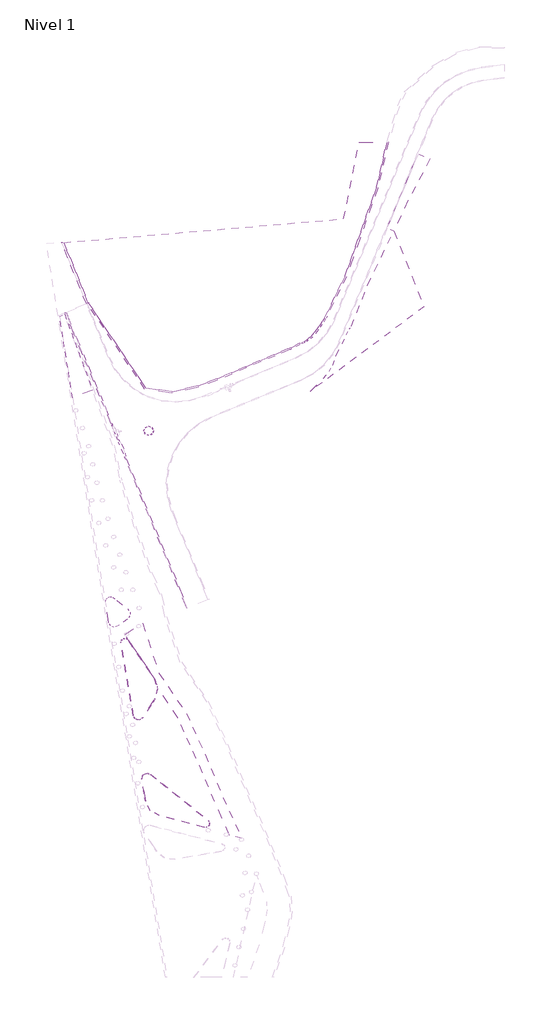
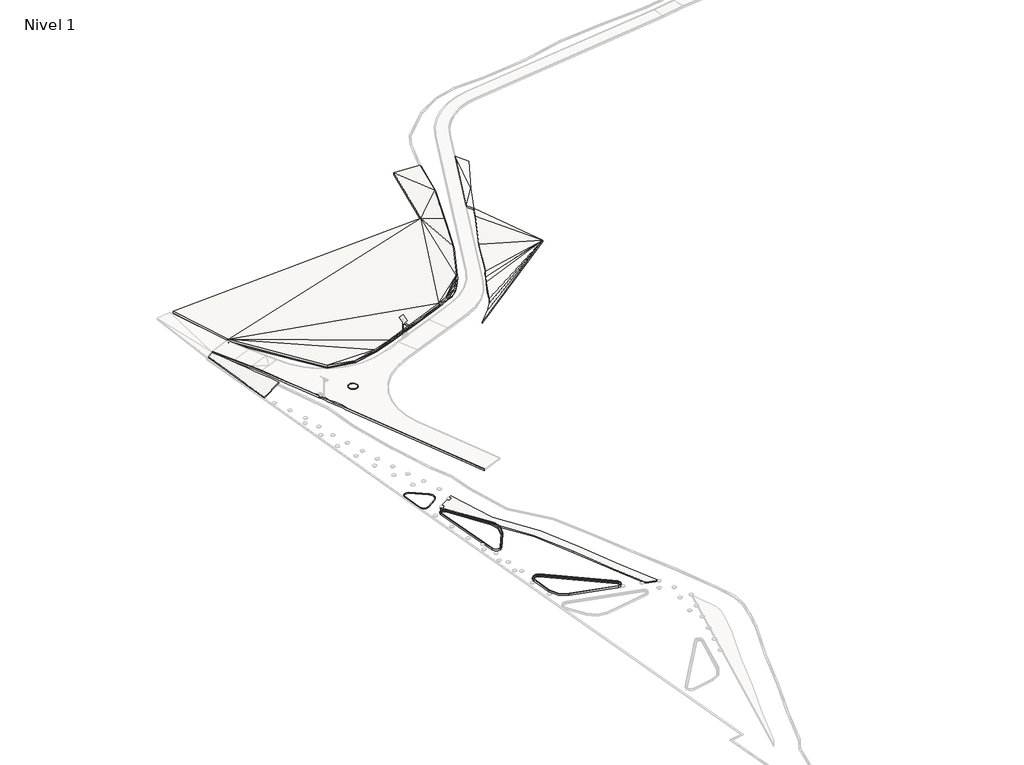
# One storey, part 26 of 45: 14 slabs.
"""IFC4 building model written with IfcOpenShell, lengths in millimetres."""

from ifc_helpers import new_model, si_unit, point, frame, frame_2d, origin, place, context, project, spatial, polyline, circle_curve, trimmed, segment, composite_curve, outline, extrude, faceted_brep, element, save
from ifc_brep_helpers import plane_surface, cylinder_surface, revolved_surface, spline_surface, advanced_brep

model = new_model("IFC4")

# Units and contexts
model_context = context("Model", 3, world=origin())
ifc_project = project(units=[si_unit("LENGTHUNIT", "METRE", prefix="MILLI")], contexts=[model_context])

# Site, building, storey
site = spatial("IfcSite", under=ifc_project)
building = spatial("IfcBuilding", under=site)
storey = spatial("IfcBuildingStorey", under=building, Name="Nivel 1", Elevation=0.0)

# Slabs
placement = place(None, origin())
element("IfcSlab", 1, ObjectType="Tierra de Chacra (50cm)", at=placement, inside=storey, context=model_context, shape_type="Brep", body=[
    faceted_brep([(-378146.3994976, 400018.7227005, 3575.4257695), (-378146.3994976, 400018.7227005, 4075.4257695), (-383377.8228678, 412861.0538119, 4900.0), (-383377.8228678, 412861.0538119, 4400.0), (-323845.4763619, 417906.5329792, 3500.0), (-323845.4763619, 417906.5329792, 3000.0), (-320598.8044626, 434137.2344872, 3500.0), (-320598.8044626, 434137.2344872, 3000.0), (-314656.1059044, 434154.0611876, 3217.107411), (-314656.1059044, 434154.0611876, 2717.107411), (-316853.6630254, 424573.4541626, 3787.4453172), (-316853.6630254, 424573.4541626, 3287.4453172), (-320226.0146362, 415163.9355018, 3952.8620717), (-320226.0146362, 415163.9355018, 3452.8620717), (-323562.0069546, 405739.0199141, 4140.6407391), (-323562.0069546, 405739.0199141, 3640.6407391), (-327963.1970536, 396771.2290702, 3947.939249), (-327963.1970536, 396771.2290702, 3447.939249), (-328676.2940522, 395614.6182796, 3916.9154118), (-328676.2940522, 395614.6182796, 3416.9154118), (-329497.5953701, 394465.3919847, 3905.7325268), (-329497.5953701, 394465.3919847, 3405.7325268), (-330723.4402804, 392991.663734, 3924.8703526), (-330723.4402804, 392991.663734, 3424.8703526), (-332192.4036407, 391792.3720205, 3917.0385342), (-332192.4036407, 391792.3720205, 3417.0385342), (-333282.2267254, 391432.335055, 3886.0367882), (-333282.2267254, 391432.335055, 3386.0367882), (-335033.9087338, 390485.2920273, 3837.8901924), (-335033.9087338, 390485.2920273, 3337.8901924), (-335674.7594649, 390246.7461476, 3844.0714275), (-335674.7594649, 390246.7461476, 3344.0714275), (-350747.530482, 383901.9008266, 4110.3877009), (-350747.530482, 383901.9008266, 3610.3877009), (-354817.062614, 382445.5375975, 4072.5746386), (-354817.062614, 382445.5375975, 3572.5746386), (-360305.5273813, 381111.4711413, 4189.1307241), (-360305.5273813, 381111.4711413, 3689.1307241), (-365964.853395, 382006.4562471, 4462.2422343), (-365964.853395, 382006.4562471, 3962.2422343), (-378140.5455537, 400021.1334942, 4075.4329873), (-378140.5455537, 400021.1334942, 3575.4329873)], [[[0, 1, 2, 3]], [[3, 2, 4, 5]], [[5, 4, 6, 7]], [[7, 6, 8, 9]], [[9, 8, 10, 11]], [[11, 10, 12, 13]], [[13, 12, 14, 15]], [[15, 14, 16, 17]], [[17, 16, 18, 19]], [[19, 18, 20, 21]], [[21, 20, 22, 23]], [[23, 22, 24, 25]], [[25, 24, 26, 27]], [[27, 26, 28, 29]], [[29, 28, 30, 31]], [[31, 30, 32, 33]], [[33, 32, 34, 35]], [[35, 34, 36, 37]], [[37, 36, 38, 39]], [[39, 38, 40, 41]], [[41, 40, 1, 0]], [[40, 38, 34]], [[41, 35, 39]], [[10, 6, 4]], [[10, 8, 6]], [[12, 10, 4]], [[11, 5, 7]], [[11, 7, 9]], [[13, 5, 11]], [[14, 12, 4]], [[15, 5, 13]], [[16, 14, 4]], [[17, 5, 15]], [[30, 28, 26]], [[30, 26, 16]], [[26, 24, 22]], [[26, 18, 16]], [[30, 16, 4]], [[31, 27, 29]], [[31, 17, 27]], [[27, 23, 25]], [[27, 17, 19]], [[31, 5, 17]], [[26, 20, 18]], [[27, 19, 21]], [[26, 22, 20]], [[27, 21, 23]], [[40, 32, 30]], [[40, 4, 2]], [[40, 30, 4]], [[41, 31, 33]], [[41, 3, 5]], [[41, 5, 31]], [[40, 34, 32]], [[41, 33, 35]], [[38, 36, 34]], [[39, 35, 37]], [[40, 2, 1]], [[41, 0, 3]]]),
])
element("IfcSlab", 2, ObjectType="Junko", at=placement, inside=storey, context=model_context, shape_type="Brep", body=[
    faceted_brep([(-314598.0289566, 415901.8677058, 4200.0), (-314598.0289566, 415901.8677058, 4500.0), (-307994.8930088, 431751.6495206, 4500.0), (-307994.8930088, 431751.6495206, 4200.0), (-305474.033996, 430701.4410722, 3134.5620039), (-305474.033996, 430701.4410722, 2834.5620039), (-310155.580028, 421818.7023593, 3587.309196), (-310155.580028, 421818.7023593, 3287.309196), (-313205.3701186, 415321.6757673, 3745.6582597), (-313205.3701186, 415321.6757673, 3445.6582597)], [[[0, 1, 2, 3]], [[3, 2, 4, 5]], [[5, 4, 6, 7]], [[7, 6, 8, 9]], [[9, 8, 1, 0]], [[8, 6, 1]], [[9, 0, 7]], [[6, 4, 2]], [[6, 2, 1]], [[7, 3, 5]], [[7, 0, 3]]]),
])
element("IfcSlab", 3, ObjectType="Bordillo", at=placement, inside=storey, context=model_context, shape_type="Brep", body=[
    faceted_brep([(-357149.8973001, 335116.3340338, 4350.0), (-357149.8973001, 335116.3340338, 4750.0), (-359053.8797869, 339739.6280086, 4750.0), (-370214.9661918, 366841.2341864, 4750.0), (-370671.9220315, 367950.8248445, 4750.0), (-371471.5946764, 369892.6083149, 4750.0307741), (-371928.5505335, 371002.1990152, 4761.4181215), (-372385.5064401, 372111.7898356, 4778.3731301), (-372872.9260555, 373295.3533329, 4796.4774108), (-373329.9588986, 374405.1309724, 4749.9954896), (-374842.8131503, 378078.6783895, 4750.0), (-375722.8747613, 380215.6641924, 4750.0), (-378344.2684725, 386580.9925682, 4750.0), (-379332.8617758, 388981.5175176, 4613.6), (-380955.8950564, 392922.6041813, 4381.4098849), (-383047.0939061, 398000.5012254, 4063.3177859), (-383047.0939061, 398000.5012254, 3663.3177859), (-380955.8952437, 392922.604636, 3981.4177859), (-379332.8611608, 388981.516024, 4213.5703452), (-378344.2684725, 386580.9925682, 4350.0), (-375722.8747613, 380215.6641924, 4350.0), (-374842.8131503, 378078.6783895, 4350.0), (-373329.9589651, 374405.131134, 4350.0), (-372872.9262308, 373295.3537585, 4396.4954626), (-372385.5064171, 372111.7897797, 4378.3774072), (-371928.5506639, 371002.1993317, 4361.3957343), (-371471.5946173, 369892.6081713, 4350.0574344), (-370671.9220315, 367950.8248445, 4350.0307741), (-370214.9661918, 366841.2341864, 4350.0), (-359053.8797869, 339739.6280086, 4350.0), (-382908.3949234, 398057.6196531, 4063.2681559), (-382908.3949234, 398057.6196531, 3663.2681559), (-380817.1950822, 392979.7202067, 4381.3683946), (-379194.163383, 389038.6373989, 4613.5919803), (-378205.5698705, 386638.1119516, 4750.0), (-375584.1761508, 380272.783581, 4750.0), (-374704.1145368, 378135.7977794, 4750.0), (-373191.2603463, 374462.250526, 4750.0), (-373191.2603463, 374462.250526, 4350.0), (-374704.1145368, 378135.7977794, 4350.0), (-375584.1761508, 380272.783581, 4350.0), (-378205.5698705, 386638.1119516, 4350.0), (-379194.163178, 389038.6369011, 4213.5820954), (-380817.1964642, 392979.7235624, 3981.4316373), (-372503.0624863, 373447.6717027, 4796.4954896), (-372503.0624863, 373447.6717027, 4396.4954896), (-372015.6430871, 372264.1085778, 4778.3954794), (-372015.6430871, 372264.1085778, 4378.3954794), (-371789.8518687, 371059.3182339, 4761.4092849), (-371789.8518687, 371059.3182339, 4361.4092849), (-371101.7313722, 370044.9268796, 4749.9945326), (-371101.7313722, 370044.9268796, 4349.9945326), (-370302.0587067, 368103.1433639, 4749.989742), (-370302.0587067, 368103.1433639, 4349.989742), (-370076.2675621, 366898.353583, 4750.0), (-370076.2675621, 366898.353583, 4350.0), (-358915.1811182, 339796.7474214, 4750.0), (-357011.1986247, 335173.4534492, 4750.0), (-357011.1986247, 335173.4534492, 4350.0), (-358915.1811182, 339796.7474214, 4350.0)], [[[0, 1, 2, 3, 4, 5, 6, 7, 8, 9, 10, 11, 12, 13, 14, 15, 16, 17, 18, 19, 20, 21, 22, 23, 24, 25, 26, 27, 28, 29]], [[16, 15, 30, 31]], [[31, 30, 32, 33, 34, 35, 36, 37, 38, 39, 40, 41, 42, 43]], [[38, 37, 44, 45]], [[45, 44, 46, 47]], [[47, 46, 48, 49]], [[49, 48, 50, 51]], [[51, 50, 52, 53]], [[53, 52, 54, 55]], [[55, 54, 56, 57, 58, 59]], [[58, 57, 1, 0]], [[54, 52, 4, 3]], [[55, 28, 27, 53]], [[57, 56, 54, 3, 2, 1]], [[58, 0, 29, 28, 55, 59]], [[48, 46, 7, 6]], [[30, 15, 14, 32]], [[49, 25, 24, 47]], [[31, 43, 17, 16]], [[44, 37, 9, 8]], [[46, 44, 8, 7]], [[34, 12, 11, 35]], [[45, 23, 22, 38]], [[47, 24, 23, 45]], [[41, 40, 20, 19]], [[50, 48, 6, 5]], [[52, 50, 5, 4]], [[51, 26, 25, 49]], [[53, 27, 26, 51]], [[34, 33, 12]], [[41, 19, 42]], [[12, 33, 13]], [[19, 18, 42]], [[33, 32, 14, 13]], [[42, 18, 17, 43]], [[37, 36, 10, 9]], [[38, 22, 21, 39]], [[35, 11, 10, 36]], [[40, 39, 21, 20]]]),
])
element("IfcSlab", 4, ObjectType="Chilca", at=placement, inside=storey, context=model_context, shape_type="AdvancedBrep", body=[
    advanced_brep(
    [(-348091.9979942, 286900.4932908, 3200.0), (-351299.8190553, 294115.3086168, 3200.0), (-355194.442815, 303295.9950162, 3200.0), (-359035.7529811, 311760.4967808, 3200.0), (-363396.928661, 318196.1963239, 3200.0), (-364054.308433, 320128.4344994, 3200.0), (-369645.3940077, 328430.6293832, 3200.0), (-370404.1515026, 329557.3072923, 3200.0), (-366653.8791033, 331966.1061695, 3200.0), (-363175.5694004, 321434.7232697, 3200.0), (-357284.7533231, 312741.7640524, 3200.0), (-353362.9542911, 304099.9014085, 3200.0), (-349465.3411608, 294912.1682538, 3200.0), (-345600.0516469, 286256.2600994, 3200.0), (-348091.9979942, 286900.4932908, 3500.0), (-345600.0516469, 286256.2600994, 3500.0), (-349465.3411608, 294912.1682538, 3500.0), (-353362.9542911, 304099.9014085, 3500.0), (-357284.7533231, 312741.7640524, 3500.0), (-363175.5694004, 321434.7232697, 3500.0), (-366653.8791033, 331966.1061695, 3500.0), (-370404.1515026, 329557.3072923, 3500.0), (-369645.4118109, 328430.655821, 3500.0), (-364054.308433, 320128.4344994, 3500.0), (-363396.928661, 318196.1963239, 3500.0), (-359035.7529811, 311760.4967808, 3500.0), (-355194.442815, 303295.9950162, 3500.0), (-351299.8190553, 294115.3086168, 3500.0)],
    [
        (0, 1),
        (1, 2),
        (2, 3),
        (3, 4),
        (4, 5, circle_curve(frame((-367289.1464844, 317949.9435559, 3200.0), z_axis=(0.0, 0.0, 1.0), x_axis=(1.0, 0.0, 0.0)), 3900.0000013)),
        (5, 6),
        (6, 7),
        (7, 8),
        (8, 9),
        (9, 10),
        (10, 11),
        (11, 12),
        (12, 13),
        (13, 0),
        (14, 15),
        (15, 16),
        (16, 17),
        (17, 18),
        (18, 19),
        (19, 20),
        (20, 21),
        (21, 22),
        (22, 23),
        (23, 24, circle_curve(frame((-367289.1464844, 317949.9435559, 3500.0), z_axis=(0.0, 0.0, -1.0), x_axis=(1.0, 0.0, 0.0)), 3900.0000013)),
        (24, 25),
        (25, 26),
        (26, 27),
        (27, 14),
        (0, 14),
        (27, 1),
        (26, 2),
        (25, 3),
        (24, 4),
        (6, 22),
        (21, 7),
        (20, 8),
        (19, 9),
        (18, 10),
        (17, 11),
        (16, 12),
        (15, 13),
        (23, 5),
    ],
    [
        plane_surface(frame((-348091.9979942, 286900.4932908, 3200.0), z_axis=(0.0, 0.0, -1.0000000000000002), x_axis=(-0.4062692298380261, 0.9137534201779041, 0.0))),
        plane_surface(frame((-348091.9979942, 286900.4932908, 3500.0), z_axis=(0.0, 0.0, 1.0000000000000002), x_axis=(0.4062692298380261, -0.9137534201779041, 0.0))),
        plane_surface(frame((-348091.9979942, 286900.4932908, 3200.0), z_axis=(-0.9137534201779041, -0.4062692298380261, 0.0), x_axis=(0.0, 0.0, 1.0))),
        plane_surface(frame((-351299.8190553, 294115.3086168, 3200.0), z_axis=(-0.9205894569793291, -0.3905317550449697, 0.0), x_axis=(0.0, 0.0, 1.0))),
        plane_surface(frame((-355194.442815, 303295.9950162, 3200.0), z_axis=(-0.9106171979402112, -0.4132509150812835, 0.0), x_axis=(0.0, 0.0, 1.0))),
        plane_surface(frame((-359035.7529811, 311760.4967808, 3200.0), z_axis=(-0.8278285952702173, -0.5609811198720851, 0.0), x_axis=(0.0, 0.0, 1.0))),
        plane_surface(frame((-369645.4118109, 328430.655821, 3200.0), z_axis=(-0.8294456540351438, -0.558587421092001, 0.0), x_axis=(0.0, 0.0, 1.0))),
        plane_surface(frame((-370404.1515026, 329557.3072923, 3200.0), z_axis=(-0.5404256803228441, 0.8413917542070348, 0.0), x_axis=(0.0, 0.0, 1.0))),
        plane_surface(frame((-366653.8791033, 331966.1061695, 3200.0), z_axis=(0.9495493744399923, 0.3136175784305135, 0.0), x_axis=(0.0, 0.0, 1.0))),
        plane_surface(frame((-363175.5694004, 321434.7232697, 3200.0), z_axis=(0.8278285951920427, 0.560981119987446, 0.0), x_axis=(0.0, 0.0, 1.0))),
        plane_surface(frame((-357284.7533231, 312741.7640524, 3200.0), z_axis=(0.9106171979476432, 0.4132509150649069, 0.0), x_axis=(0.0, 0.0, 1.0))),
        plane_surface(frame((-353362.9542911, 304099.9014085, 3200.0), z_axis=(0.9205894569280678, 0.3905317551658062, 0.0), x_axis=(0.0, 0.0, 1.0))),
        plane_surface(frame((-349465.3411608, 294912.1682538, 3200.0), z_axis=(0.9130968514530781, 0.40774273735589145, 0.0), x_axis=(0.0, 0.0, 1.0))),
        plane_surface(frame((-345600.0516469, 286256.2600994, 3200.0), z_axis=(-0.2502969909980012, -0.9681691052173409, 0.0), x_axis=(0.0, 0.0, 1.0))),
        revolved_surface(polyline([(-363389.14648309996, 317949.9435559, 3500.0), (-363389.14648309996, 317949.9435559, 3200.0)]), (-367289.1464844, 317949.9435559, 3500.0), (0.0, 0.0, 1.0)),
        plane_surface(frame((-364054.308433, 320128.4344994, 3200.0), z_axis=(-0.8294456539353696, -0.5585874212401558, 0.0), x_axis=(0.0, 0.0, 1.0))),
    ],
    [
        (0, [[1, 2, 3, 4, 5, 6, 7, 8, 9, 10, 11, 12, 13, 14]]),
        (1, [[15, 16, 17, 18, 19, 20, 21, 22, 23, 24, 25, 26, 27, 28]]),
        (2, [[-1, 29, -28, 30]]),
        (3, [[-2, -30, -27, 31]]),
        (4, [[-3, -31, -26, 32]]),
        (5, [[-4, -32, -25, 33]]),
        (6, [[-7, 34, -22, 35]]),
        (7, [[-8, -35, -21, 36]]),
        (8, [[-9, -36, -20, 37]]),
        (9, [[-10, -37, -19, 38]]),
        (10, [[-11, -38, -18, 39]]),
        (11, [[-12, -39, -17, 40]]),
        (12, [[-13, -40, -16, 41]]),
        (13, [[-14, -41, -15, -29]]),
        (14, [[-5, -33, -24, 42]]),
        (15, [[-6, -42, -23, -34]]),
    ],
),
])
element("IfcSlab", 5, ObjectType="Tierra de Chacra (50cm)", at=placement, inside=storey, context=model_context, shape_type="SweptSolid", body=[
    extrude(outline(composite_curve([segment(trimmed(circle_curve(frame_2d((-365328.1764563, 372855.3859913)), 950.0), [point((-366278.1764563, 372855.3859913))], [point((-364378.1764563, 372855.3859913))], False, "CARTESIAN"), True, "CONTINUOUS"), segment(trimmed(circle_curve(frame_2d((-365328.1764563, 372855.3859913)), 950.0), [point((-364378.1764563, 372855.3859913))], [point((-366278.1764563, 372855.3859913))], False, "CARTESIAN"), True, "CONTINUOUS")], self_intersect=False)), frame((0.0, 0.0, 4250.0), z_axis=(0.0, 0.0, 1.0), x_axis=(1.0, 0.0, 0.0)), (0.0, 0.0, 1.0), 500.0),
])
element("IfcSlab", 6, ObjectType="Alcorque", at=placement, inside=storey, context=model_context, shape_type="SweptSolid", body=[
    extrude(outline(composite_curve([segment(trimmed(circle_curve(frame_2d((-365328.1764563, 372855.3859913)), 1050.0), [point((-366378.1764563, 372855.3859913))], [point((-364278.1764563, 372855.3859913))], False, "CARTESIAN"), True, "CONTINUOUS"), segment(trimmed(circle_curve(frame_2d((-365328.1764563, 372855.3859913)), 1050.0), [point((-364278.1764563, 372855.3859913))], [point((-366378.1764563, 372855.3859913))], False, "CARTESIAN"), True, "CONTINUOUS")], self_intersect=False), holes=[composite_curve([segment(trimmed(circle_curve(frame_2d((-365328.1764563, 372855.3859913)), 950.0), [point((-364378.1764563, 372855.3859913))], [point((-366278.1764563, 372855.3859913))], True, "CARTESIAN"), True, "CONTINUOUS"), segment(trimmed(circle_curve(frame_2d((-365328.1764563, 372855.3859913)), 950.0), [point((-366278.1764563, 372855.3859913))], [point((-364378.1764563, 372855.3859913))], True, "CARTESIAN"), True, "CONTINUOUS")], self_intersect=False)]), frame((0.0, 0.0, 4650.0), z_axis=(0.0, 0.0, 1.0), x_axis=(1.0, 0.0, 0.0)), (0.0, 0.0, 1.0), 150.0),
])
element("IfcSlab", 7, ObjectType="Tierra de Chacra (20cm)", at=placement, inside=storey, context=model_context, shape_type="AdvancedBrep", body=[
    advanced_brep(
    [(-352725.5404634, 290003.7125198, 3100.0), (-353424.8080519, 288604.3253806, 3100.0), (-363118.0568555, 291099.8424463, 3100.0), (-365920.182165, 294162.6196729, 3100.0), (-366688.8271733, 298832.0158145, 3100.0), (-364996.7838568, 299822.5201199, 3100.0), (-365184.2134707, 299588.2763584, 3100.0), (-366392.8136329, 298880.7598824, 3100.0), (-365624.1660149, 294211.3478873, 3100.0), (-363043.2611245, 291390.3688627, 3100.0), (-353350.0123209, 288894.851797, 3100.0), (-352912.9700781, 289769.4687589, 3100.0), (-352725.5404634, 290003.7125198, 3300.0), (-364996.7838568, 299822.5201199, 3300.0), (-366688.8271733, 298832.0158146, 3300.0), (-365920.182165, 294162.6196729, 3300.0), (-363118.0568555, 291099.8424463, 3300.0), (-353424.8080519, 288604.3253806, 3300.0), (-365184.2134674, 299588.2763631, 3300.0), (-352912.9700781, 289769.4687589, 3300.0), (-353350.0123209, 288894.851797, 3300.0), (-363043.2611245, 291390.3688627, 3300.0), (-365624.1660149, 294211.3478873, 3300.0), (-366392.8136329, 298880.7598824, 3300.0)],
    [
        (0, 1, circle_curve(frame((-353225.3527693, 289379.0624908, 3100.0), z_axis=(0.0, 0.0, -1.0), x_axis=(-0.054500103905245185, -0.9985137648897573, 0.0)), 799.9999998)),
        (1, 2),
        (2, 3, circle_curve(frame((-362170.6442624, 294779.8437218, 3100.0), z_axis=(0.0, 0.0, -1.0), x_axis=(-0.054500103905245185, -0.9985137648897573, 0.0)), 3800.0000013)),
        (3, 4),
        (4, 5, circle_curve(frame((-365652.7875063, 299002.6669534, 3100.0), z_axis=(0.0, 0.0, -1.0), x_axis=(-0.054500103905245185, -0.9985137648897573, 0.0)), 1050.0000013)),
        (5, 0),
        (6, 7, circle_curve(frame((-365652.7875063, 299002.6669534, 3100.0), z_axis=(0.0, 0.0, 1.0), x_axis=(-0.054500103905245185, -0.9985137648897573, 0.0)), 750.0000013)),
        (7, 8),
        (8, 9, circle_curve(frame((-362170.6442624, 294779.8437218, 3100.0), z_axis=(0.0, 0.0, 1.0), x_axis=(-0.054500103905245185, -0.9985137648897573, 0.0)), 3500.0000013)),
        (9, 10),
        (10, 11, circle_curve(frame((-353225.3527693, 289379.0624908, 3100.0), z_axis=(0.0, 0.0, 1.0), x_axis=(-0.054500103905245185, -0.9985137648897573, 0.0)), 499.9999998)),
        (11, 6),
        (12, 13),
        (13, 14, circle_curve(frame((-365652.7875063, 299002.6669534, 3300.0), z_axis=(0.0, 0.0, 1.0), x_axis=(-0.054500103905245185, -0.9985137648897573, 0.0)), 1050.0000013)),
        (14, 15),
        (15, 16, circle_curve(frame((-362170.6442624, 294779.8437218, 3300.0), z_axis=(0.0, 0.0, 1.0), x_axis=(-0.054500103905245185, -0.9985137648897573, 0.0)), 3800.0000013)),
        (16, 17),
        (17, 12, circle_curve(frame((-353225.3527693, 289379.0624908, 3300.0), z_axis=(0.0, 0.0, 1.0), x_axis=(-0.054500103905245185, -0.9985137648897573, 0.0)), 799.9999998)),
        (18, 19),
        (19, 20, circle_curve(frame((-353225.3527693, 289379.0624908, 3300.0), z_axis=(0.0, 0.0, -1.0), x_axis=(-0.054500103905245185, -0.9985137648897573, 0.0)), 499.9999998)),
        (20, 21),
        (21, 22, circle_curve(frame((-362170.6442624, 294779.8437218, 3300.0), z_axis=(0.0, 0.0, -1.0), x_axis=(-0.054500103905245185, -0.9985137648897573, 0.0)), 3500.0000013)),
        (22, 23),
        (23, 18, circle_curve(frame((-365652.7875063, 299002.6669534, 3300.0), z_axis=(0.0, 0.0, -1.0), x_axis=(-0.054500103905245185, -0.9985137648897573, 0.0)), 750.0000013)),
        (6, 18),
        (23, 7),
        (22, 8),
        (21, 9),
        (20, 10),
        (19, 11),
        (0, 12),
        (17, 1),
        (16, 2),
        (15, 3),
        (14, 4),
        (13, 5),
    ],
    [
        plane_surface(frame((-365693.6625843, 298253.7816284, 3100.0), z_axis=(0.0, 0.0, -1.0), x_axis=(0.9985137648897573, -0.054500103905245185, 0.0))),
        plane_surface(frame((-365693.6625843, 298253.7816284, 3300.0), z_axis=(0.0, 0.0, 1.0), x_axis=(-0.9985137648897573, 0.054500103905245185, 0.0))),
        revolved_surface(polyline([(-365693.6625842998, 298253.7816284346, 3300.0), (-365693.6625842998, 298253.7816284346, 3100.0)]), (-365652.7875063, 299002.6669534, 3300.0), (0.0, 0.0, 1.0)),
        plane_surface(frame((-366392.8136329, 298880.7598824, 3100.0), z_axis=(0.9867205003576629, 0.16242738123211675, 0.0), x_axis=(0.0, 0.0, 1.0))),
        revolved_surface(polyline([(-362361.3946261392, 291285.0455433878, 3300.0), (-362361.3946261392, 291285.0455433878, 3100.0)]), (-362170.6442624, 294779.8437218, 3300.0), (0.0, 0.0, 1.0)),
        plane_surface(frame((-363043.2611245, 291390.3688627, 3100.0), z_axis=(0.24931910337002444, 0.9684213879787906, 0.0), x_axis=(0.0, 0.0, 1.0))),
        revolved_surface(polyline([(-353252.6028212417, 288879.8056085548, 3300.0), (-353252.6028212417, 288879.8056085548, 3100.0)]), (-353225.3527693, 289379.0624908, 3300.0), (0.0, 0.0, 1.0)),
        plane_surface(frame((-352912.9700781, 289769.4687589, 3100.0), z_axis=(-0.6247653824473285, -0.7808125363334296, 0.0), x_axis=(0.0, 0.0, 1.0))),
        cylinder_surface(frame((-353225.3527693, 289379.0624908, 0.0), z_axis=(0.0, 0.0, -1.0), x_axis=(-0.054500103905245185, -0.9985137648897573, 0.0)), 799.9999998),
        plane_surface(frame((-353424.8080519, 288604.3253806, 3100.0), z_axis=(-0.24931910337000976, -0.9684213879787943, 0.0), x_axis=(0.0, 0.0, 1.0))),
        cylinder_surface(frame((-362170.6442624, 294779.8437218, 0.0), z_axis=(0.0, 0.0, -1.0), x_axis=(-0.054500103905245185, -0.9985137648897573, 0.0)), 3800.0000013),
        plane_surface(frame((-365920.182165, 294162.6196729, 3100.0), z_axis=(-0.9867205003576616, -0.16242738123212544, 0.0), x_axis=(0.0, 0.0, 1.0))),
        cylinder_surface(frame((-365652.7875063, 299002.6669534, 0.0), z_axis=(0.0, 0.0, -1.0), x_axis=(-0.054500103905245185, -0.9985137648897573, 0.0)), 1050.0000013),
        plane_surface(frame((-364996.7838568, 299822.5201199, 3100.0), z_axis=(0.6247653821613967, 0.7808125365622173, 0.0), x_axis=(0.0, 0.0, 1.0))),
    ],
    [
        (0, [[1, 2, 3, 4, 5, 6], [7, 8, 9, 10, 11, 12]]),
        (1, [[13, 14, 15, 16, 17, 18], [19, 20, 21, 22, 23, 24]]),
        (2, [[-7, 25, -24, 26]]),
        (3, [[-8, -26, -23, 27]]),
        (4, [[-9, -27, -22, 28]]),
        (5, [[-10, -28, -21, 29]]),
        (6, [[-11, -29, -20, 30]]),
        (7, [[-12, -30, -19, -25]]),
        (8, [[-1, 31, -18, 32]]),
        (9, [[-2, -32, -17, 33]]),
        (10, [[-3, -33, -16, 34]]),
        (11, [[-4, -34, -15, 35]]),
        (12, [[-5, -35, -14, 36]]),
        (13, [[-6, -36, -13, -31]]),
    ],
),
])
element("IfcSlab", 8, ObjectType="Tierra de Chacra (20cm)", at=placement, inside=storey, context=model_context, shape_type="AdvancedBrep", body=[
    advanced_brep(
    [(-371180.3861969, 327792.6905572, 3100.0), (-369728.3385731, 328374.7706411, 3100.0), (-364137.2529984, 320072.5757573, 3100.0), (-364075.6211963, 315921.8273776, 3100.0), (-366601.2865188, 311919.9415536, 3100.0), (-368524.1842452, 312302.7909997, 3100.0), (-368228.5000826, 312353.4948059, 3100.0), (-366854.9944588, 312080.0424012, 3100.0), (-364329.320561, 316081.9418127, 3100.0), (-364386.0866945, 319904.9995309, 3100.0), (-369977.1722693, 328207.1944147, 3100.0), (-370884.702034, 327843.3943624, 3100.0), (-371180.3861969, 327792.6905572, 3300.0), (-368524.1842452, 312302.7909997, 3300.0), (-366601.2865187, 311919.9415537, 3300.0), (-364075.6211963, 315921.8273776, 3300.0), (-364137.2529984, 320072.5757573, 3300.0), (-369728.3385731, 328374.7706411, 3300.0), (-368228.5000882, 312353.4948045, 3300.0), (-370884.702034, 327843.3943624, 3300.0), (-369977.1722693, 328207.1944147, 3300.0), (-364386.0866945, 319904.9995309, 3300.0), (-364329.320561, 316081.9418127, 3300.0), (-366854.9944588, 312080.0424012, 3300.0)],
    [
        (0, 1, circle_curve(frame((-370391.8950962, 327927.9007042, 3100.0), z_axis=(0.0, 0.0, -1.0), x_axis=(0.7037517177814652, 0.7104460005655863, 0.0)), 799.9999998)),
        (1, 2),
        (2, 3, circle_curve(frame((-367289.1464844, 317949.9435559, 3100.0), z_axis=(0.0, 0.0, -1.0), x_axis=(0.7037517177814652, 0.7104460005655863, 0.0)), 3800.0000013)),
        (3, 4),
        (4, 5, circle_curve(frame((-367489.2896747, 312480.2543216, 3100.0), z_axis=(0.0, 0.0, -1.0), x_axis=(0.7037517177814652, 0.7104460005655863, 0.0)), 1050.0000013)),
        (5, 0),
        (6, 7, circle_curve(frame((-367489.2896747, 312480.2543216, 3100.0), z_axis=(0.0, 0.0, 1.0), x_axis=(0.7037517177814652, 0.7104460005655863, 0.0)), 750.0000013)),
        (7, 8),
        (8, 9, circle_curve(frame((-367289.1464844, 317949.9435559, 3100.0), z_axis=(0.0, 0.0, 1.0), x_axis=(0.7037517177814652, 0.7104460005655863, 0.0)), 3500.0000013)),
        (9, 10),
        (10, 11, circle_curve(frame((-370391.8950962, 327927.9007042, 3100.0), z_axis=(0.0, 0.0, 1.0), x_axis=(0.7037517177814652, 0.7104460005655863, 0.0)), 499.9999998)),
        (11, 6),
        (12, 13),
        (13, 14, circle_curve(frame((-367489.2896747, 312480.2543216, 3300.0), z_axis=(0.0, 0.0, 1.0), x_axis=(0.7037517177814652, 0.7104460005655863, 0.0)), 1050.0000013)),
        (14, 15),
        (15, 16, circle_curve(frame((-367289.1464844, 317949.9435559, 3300.0), z_axis=(0.0, 0.0, 1.0), x_axis=(0.7037517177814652, 0.7104460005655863, 0.0)), 3800.0000013)),
        (16, 17),
        (17, 12, circle_curve(frame((-370391.8950962, 327927.9007042, 3300.0), z_axis=(0.0, 0.0, 1.0), x_axis=(0.7037517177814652, 0.7104460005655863, 0.0)), 799.9999998)),
        (18, 19),
        (19, 20, circle_curve(frame((-370391.8950962, 327927.9007042, 3300.0), z_axis=(0.0, 0.0, -1.0), x_axis=(0.7037517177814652, 0.7104460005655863, 0.0)), 499.9999998)),
        (20, 21),
        (21, 22, circle_curve(frame((-367289.1464844, 317949.9435559, 3300.0), z_axis=(0.0, 0.0, -1.0), x_axis=(0.7037517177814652, 0.7104460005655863, 0.0)), 3500.0000013)),
        (22, 23),
        (23, 18, circle_curve(frame((-367489.2896747, 312480.2543216, 3300.0), z_axis=(0.0, 0.0, -1.0), x_axis=(0.7037517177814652, 0.7104460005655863, 0.0)), 750.0000013)),
        (6, 18),
        (23, 7),
        (22, 8),
        (21, 9),
        (20, 10),
        (19, 11),
        (0, 12),
        (17, 1),
        (16, 2),
        (15, 3),
        (14, 4),
        (13, 5),
    ],
    [
        plane_surface(frame((-366961.4758854, 313013.0888229, 3100.0), z_axis=(0.0, 0.0, -1.0), x_axis=(-0.7104460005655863, 0.7037517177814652, 0.0))),
        plane_surface(frame((-366961.4758854, 313013.0888229, 3300.0), z_axis=(0.0, 0.0, 1.0), x_axis=(0.7104460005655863, -0.7037517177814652, 0.0))),
        revolved_surface(polyline([(-366961.47588544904, 313013.0888229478, 3300.0), (-366961.47588544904, 313013.0888229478, 3100.0)]), (-367489.2896747, 312480.2543216, 3300.0), (0.0, 0.0, 1.0)),
        plane_surface(frame((-366854.9944588, 312080.0424012, 3100.0), z_axis=(-0.8456645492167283, 0.533714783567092, 0.0), x_axis=(0.0, 0.0, 1.0))),
        revolved_surface(polyline([(-364826.01547125, 320436.50455880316, 3300.0), (-364826.01547125, 320436.50455880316, 3100.0)]), (-367289.1464844, 317949.9435559, 3300.0), (0.0, 0.0, 1.0)),
        plane_surface(frame((-364386.0866945, 319904.9995309, 3100.0), z_axis=(-0.8294456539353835, -0.558587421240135, 0.0), x_axis=(0.0, 0.0, 1.0))),
        revolved_surface(polyline([(-370040.01923745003, 328283.12370434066, 3300.0), (-370040.01923745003, 328283.12370434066, 3100.0)]), (-370391.8950962, 327927.9007042, 3300.0), (0.0, 0.0, 1.0)),
        plane_surface(frame((-370884.702034, 327843.3943624, 3100.0), z_axis=(0.9856138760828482, 0.1690126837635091, 0.0), x_axis=(0.0, 0.0, 1.0))),
        cylinder_surface(frame((-370391.8950962, 327927.9007042, 0.0), z_axis=(0.0, 0.0, -1.0), x_axis=(0.7037517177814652, 0.7104460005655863, 0.0)), 799.9999998),
        plane_surface(frame((-369728.3385731, 328374.7706411, 3100.0), z_axis=(0.8294456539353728, 0.558587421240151, 0.0), x_axis=(0.0, 0.0, 1.0))),
        cylinder_surface(frame((-367289.1464844, 317949.9435559, 0.0), z_axis=(0.0, 0.0, -1.0), x_axis=(0.7037517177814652, 0.7104460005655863, 0.0)), 3800.0000013),
        plane_surface(frame((-364075.6211963, 315921.8273776, 3100.0), z_axis=(0.8456645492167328, -0.5337147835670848, 0.0), x_axis=(0.0, 0.0, 1.0))),
        cylinder_surface(frame((-367489.2896747, 312480.2543216, 0.0), z_axis=(0.0, 0.0, -1.0), x_axis=(0.7037517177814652, 0.7104460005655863, 0.0)), 1050.0000013),
        plane_surface(frame((-368524.1842452, 312302.7909997, 3100.0), z_axis=(-0.985613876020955, -0.16901268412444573, 0.0), x_axis=(0.0, 0.0, 1.0))),
    ],
    [
        (0, [[1, 2, 3, 4, 5, 6], [7, 8, 9, 10, 11, 12]]),
        (1, [[13, 14, 15, 16, 17, 18], [19, 20, 21, 22, 23, 24]]),
        (2, [[-7, 25, -24, 26]]),
        (3, [[-8, -26, -23, 27]]),
        (4, [[-9, -27, -22, 28]]),
        (5, [[-10, -28, -21, 29]]),
        (6, [[-11, -29, -20, 30]]),
        (7, [[-12, -30, -19, -25]]),
        (8, [[-1, 31, -18, 32]]),
        (9, [[-2, -32, -17, 33]]),
        (10, [[-3, -33, -16, 34]]),
        (11, [[-4, -34, -15, 35]]),
        (12, [[-5, -35, -14, 36]]),
        (13, [[-6, -36, -13, -31]]),
    ],
),
])
element("IfcSlab", 9, ObjectType="Tierra de Chacra (20cm)", at=placement, inside=storey, context=model_context, shape_type="SweptSolid", body=[
    extrude(outline(composite_curve([segment(polyline([(-372994.6439641, 337452.9042341), (-369801.7157898, 335034.9958485)]), True, "CONTINUOUS"), segment(trimmed(circle_curve(frame_2d((-370646.8996446, 333918.9025513)), 1399.9999988), [point((-369801.7157898, 335034.9958485))], [point((-369855.3511744, 332764.1510559))], False, "CARTESIAN"), True, "CONTINUOUS"), segment(polyline([(-369855.3511744, 332764.1510559), (-372013.5327019, 331284.7805651)]), True, "CONTINUOUS"), segment(trimmed(circle_curve(frame_2d((-372663.7332316, 332233.3264373)), 1150.0000002), [point((-372013.5327019, 331284.7805651))], [point((-373802.9169686, 332075.972016))], False, "CARTESIAN"), True, "CONTINUOUS"), segment(polyline([(-373802.9169686, 332075.972016), (-374429.511541, 336612.2687469)]), True, "CONTINUOUS"), segment(trimmed(circle_curve(frame_2d((-373537.9764427, 336735.4156853)), 900.0), [point((-374429.511541, 336612.2687469))], [point((-372994.6439641, 337452.9042341))], False, "CARTESIAN"), True, "CONTINUOUS")], self_intersect=False), holes=[composite_curve([segment(trimmed(circle_curve(frame_2d((-370646.8996446, 333918.9025513)), 1299.9999988), [point((-369911.8903509, 332846.6333056))], [point((-369862.0860652, 334955.2748987))], True, "CARTESIAN"), True, "CONTINUOUS"), segment(polyline([(-369862.0860652, 334955.2748987), (-373055.0142395, 337373.1832843)]), True, "CONTINUOUS"), segment(trimmed(circle_curve(frame_2d((-373537.9764427, 336735.4156853)), 800.0), [point((-373055.0142395, 337373.1832843))], [point((-374330.4520857, 336625.9517401))], True, "CARTESIAN"), True, "CONTINUOUS"), segment(polyline([(-374330.4520857, 336625.9517401), (-373703.8575132, 332089.6550092)]), True, "CONTINUOUS"), segment(trimmed(circle_curve(frame_2d((-372663.7332316, 332233.3264373)), 1050.0000002), [point((-373703.8575132, 332089.6550092))], [point((-372070.0718783, 331367.2628148))], True, "CARTESIAN"), True, "CONTINUOUS"), segment(polyline([(-372070.0718783, 331367.2628148), (-369911.8903509, 332846.6333056)]), True, "CONTINUOUS")], self_intersect=False)]), frame((0.0, 0.0, 3100.0), z_axis=(0.0, 0.0, 1.0), x_axis=(1.0, 0.0, 0.0)), (0.0, 0.0, 1.0), 200.0),
])
element("IfcSlab", 10, ObjectType="Bordillo", at=placement, inside=storey, context=model_context, shape_type="SweptSolid", body=[
    extrude(outline(composite_curve([segment(trimmed(circle_curve(frame_2d((-362170.6821097, 294779.821564)), 3900.0000023), [point((-363143.0266133, 291002.9781487))], [point((-366018.8827373, 294146.2981251))], False, "CARTESIAN"), True, "CONTINUOUS"), segment(polyline([(-366018.8827373, 294146.2981251), (-366787.5539267, 298815.8533118)]), True, "CONTINUOUS"), segment(trimmed(circle_curve(frame_2d((-365652.8253515, 299002.6448002)), 1149.9999998), [point((-366787.5539267, 298815.8533118))], [point((-364934.3708085, 299900.5997373))], False, "CARTESIAN"), True, "CONTINUOUS"), segment(polyline([(-364934.3708085, 299900.5997373), (-352663.1017712, 290081.7716136)]), True, "CONTINUOUS"), segment(trimmed(circle_curve(frame_2d((-353225.390615, 289379.0403312)), 899.9999995), [point((-352663.1017712, 290081.7716136))], [point((-353449.7493567, 288507.4537583))], False, "CARTESIAN"), True, "CONTINUOUS"), segment(polyline([(-353449.7493567, 288507.4537583), (-363143.0266133, 291002.9781487)]), True, "CONTINUOUS")], self_intersect=False), holes=[composite_curve([segment(trimmed(circle_curve(frame_2d((-353225.3527693, 289379.0624908)), 799.9999998), [point((-353424.8080519, 288604.3253806))], [point((-352725.5404636, 290003.71252))], True, "CARTESIAN"), True, "CONTINUOUS"), segment(polyline([(-352725.5404636, 290003.71252), (-364996.7838542, 299822.5201179)]), True, "CONTINUOUS"), segment(trimmed(circle_curve(frame_2d((-365652.7875063, 299002.6669534)), 1050.0000013), [point((-364996.7838542, 299822.5201179))], [point((-366688.8271733, 298832.0158141))], True, "CARTESIAN"), True, "CONTINUOUS"), segment(polyline([(-366688.8271733, 298832.0158141), (-365920.182165, 294162.6196729)]), True, "CONTINUOUS"), segment(trimmed(circle_curve(frame_2d((-362170.6442624, 294779.8437218)), 3800.0000013), [point((-365920.182165, 294162.6196729))], [point((-363118.0568555, 291099.8424463))], True, "CARTESIAN"), True, "CONTINUOUS"), segment(polyline([(-363118.0568555, 291099.8424463), (-353424.8080519, 288604.3253806)]), True, "CONTINUOUS")], self_intersect=False)]), frame((0.0, 0.0, 3100.0), z_axis=(0.0, 0.0, 1.0), x_axis=(1.0, 0.0, 0.0)), (0.0, 0.0, 1.0), 400.0),
])
element("IfcSlab", 11, ObjectType="Bordillo", at=placement, inside=storey, context=model_context, shape_type="SweptSolid", body=[
    extrude(outline(composite_curve([segment(polyline([(-368622.7456334, 312285.8897346), (-371278.9475844, 327775.7892885)]), True, "CONTINUOUS"), segment(trimmed(circle_curve(frame_2d((-370391.8950962, 327927.9007042)), 899.9999998), [point((-371278.9475844, 327775.7892885))], [point((-369645.3940077, 328430.6293832))], False, "CARTESIAN"), True, "CONTINUOUS"), segment(polyline([(-369645.3940077, 328430.6293832), (-364054.308433, 320128.4344994)]), True, "CONTINUOUS"), segment(trimmed(circle_curve(frame_2d((-367289.1464844, 317949.9435559)), 3900.0000013), [point((-364054.308433, 320128.4344994))], [point((-363991.0547413, 315868.4558993))], False, "CARTESIAN"), True, "CONTINUOUS"), segment(polyline([(-363991.0547413, 315868.4558993), (-366516.7174862, 311866.5741595)]), True, "CONTINUOUS"), segment(trimmed(circle_curve(frame_2d((-367489.2896747, 312480.2543216)), 1150.0000013), [point((-366516.7174862, 311866.5741595))], [point((-368622.7456334, 312285.8897346))], False, "CARTESIAN"), True, "CONTINUOUS")], self_intersect=False), holes=[composite_curve([segment(polyline([(-364137.2529984, 320072.5757573), (-369728.3385731, 328374.7706411)]), True, "CONTINUOUS"), segment(trimmed(circle_curve(frame_2d((-370391.8950962, 327927.9007042)), 799.9999998), [point((-369728.3385731, 328374.7706411))], [point((-371180.3861968, 327792.6905569))], True, "CARTESIAN"), True, "CONTINUOUS"), segment(polyline([(-371180.3861968, 327792.6905569), (-368524.1842458, 312302.791003)]), True, "CONTINUOUS"), segment(trimmed(circle_curve(frame_2d((-367489.2896747, 312480.2543216)), 1050.0000013), [point((-368524.1842458, 312302.791003))], [point((-366601.2865185, 311919.941554))], True, "CARTESIAN"), True, "CONTINUOUS"), segment(polyline([(-366601.2865185, 311919.941554), (-364075.6211963, 315921.8273776)]), True, "CONTINUOUS"), segment(trimmed(circle_curve(frame_2d((-367289.1464844, 317949.9435559)), 3800.0000013), [point((-364075.6211963, 315921.8273776))], [point((-364137.2529984, 320072.5757573))], True, "CARTESIAN"), True, "CONTINUOUS")], self_intersect=False)]), frame((0.0, 0.0, 3100.0), z_axis=(0.0, 0.0, 1.0), x_axis=(1.0, 0.0, 0.0)), (0.0, 0.0, 1.0), 400.0),
])
element("IfcSlab", 12, ObjectType="Tierra de Chacra (20cm)", at=placement, inside=storey, context=model_context, shape_type="Brep", body=[
    faceted_brep([(-378157.7521529, 400046.5917044, 3440.0), (-378157.7521529, 400046.5917044, 3640.0), (-365964.853395, 382006.4562471, 3962.2422343), (-365964.853395, 382006.4562471, 3762.2422343), (-360305.5273813, 381111.4711413, 4000.0), (-360305.5273813, 381111.4711413, 3800.0), (-354817.062614, 382445.5375975, 3760.0), (-354817.062614, 382445.5375975, 3560.0), (-350747.530482, 383901.9008266, 3830.0), (-350747.530482, 383901.9008266, 3630.0), (-335674.7594649, 390246.7461476, 3500.0), (-335674.7594649, 390246.7461476, 3300.0), (-335033.9087338, 390485.2920273, 3500.0), (-335033.9087338, 390485.2920273, 3300.0), (-333282.2267254, 391432.335055, 3500.0), (-333282.2267254, 391432.335055, 3300.0), (-332192.4036407, 391792.3720205, 3500.0), (-332192.4036407, 391792.3720205, 3300.0), (-330723.4402804, 392991.663734, 3500.0), (-330723.4402804, 392991.663734, 3300.0), (-329497.5953701, 394465.3919847, 3500.0), (-329497.5953701, 394465.3919847, 3300.0), (-328676.2940522, 395614.6182796, 3500.0), (-328676.2940522, 395614.6182796, 3300.0), (-327963.1970536, 396771.2290702, 3500.0), (-327963.1970536, 396771.2290702, 3300.0), (-323562.0069546, 405739.0199141, 3500.0), (-323562.0069546, 405739.0199141, 3300.0), (-320226.0146362, 415163.9355018, 3500.0), (-320226.0146362, 415163.9355018, 3300.0), (-316853.6630254, 424573.4541626, 3500.0), (-316853.6630254, 424573.4541626, 3300.0), (-314656.1059044, 434154.0611876, 2917.1037055), (-314656.1059044, 434154.0611876, 2717.1037055), (-314348.3150934, 434154.0611876, 2917.0962945), (-314348.3150934, 434154.0611876, 2717.0962945), (-316565.240671, 424489.0142313, 3500.0), (-316565.240671, 424489.0142313, 3300.0), (-320315.5950228, 414011.7578814, 3500.0), (-320315.5950228, 414011.7578814, 3300.0), (-323285.0702146, 405622.3341791, 3500.0), (-323285.0702146, 405622.3341791, 3300.0), (-327414.3504458, 397232.0255549, 3500.0), (-327414.3504458, 397232.0255549, 3300.0), (-327699.0026255, 396628.1056708, 3500.0), (-327699.0026255, 396628.1056708, 3300.0), (-328426.2836378, 395448.4890574, 3500.0), (-328426.2836378, 395448.4890574, 3300.0), (-329259.917089, 394282.0067169, 3500.0), (-329259.917089, 394282.0067169, 3300.0), (-330511.326803, 392777.5440966, 3500.0), (-330511.326803, 392777.5440966, 3300.0), (-331394.8316723, 392056.6082211, 3500.0), (-331394.8316723, 392056.6082211, 3300.0), (-332045.5842978, 391524.9285796, 3500.0), (-332045.5842978, 391524.9285796, 3300.0), (-333162.9075239, 391155.8065923, 3500.0), (-333162.9075239, 391155.8065923, 3300.0), (-334909.8339249, 390211.3346724, 3500.0), (-334909.8339249, 390211.3346724, 3300.0), (-335209.8900209, 390100.1404473, 3500.0), (-335209.8900209, 390100.1404473, 3300.0), (-335564.8262707, 389967.5638942, 3500.0), (-335564.8262707, 389967.5638942, 3300.0), (-341434.9466511, 387535.5826156, 3550.7896833), (-341434.9466511, 387535.5826156, 3350.7896833), (-350638.2018478, 383622.3942121, 3828.7361534), (-350638.2018478, 383622.3942121, 3628.7361534), (-354730.8541546, 382157.756968, 3760.8272118), (-354730.8541546, 382157.756968, 3560.8272118), (-360293.0480176, 380805.7693789, 3999.5410657), (-360293.0480176, 380805.7693789, 3799.5410657), (-366140.4325308, 381730.4946953, 4200.0), (-366140.4325308, 381730.4946953, 4000.0), (-378423.7991834, 399904.4829061, 3663.3), (-378423.7991834, 399904.4829061, 3463.3), (-378562.4990272, 399847.3630095, 3640.0), (-378562.4990272, 399847.3630095, 3440.0), (-383906.7876592, 412966.7607942, 4504.9641367), (-383906.7876592, 412966.7607942, 4304.9641367), (-383377.8228678, 412861.0538119, 4500.0), (-383377.8228678, 412861.0538119, 4300.0)], [[[0, 1, 2, 3]], [[3, 2, 4, 5]], [[5, 4, 6, 7]], [[7, 6, 8, 9]], [[9, 8, 10, 11]], [[11, 10, 12, 13]], [[13, 12, 14, 15]], [[15, 14, 16, 17]], [[17, 16, 18, 19]], [[19, 18, 20, 21]], [[21, 20, 22, 23]], [[23, 22, 24, 25]], [[25, 24, 26, 27]], [[27, 26, 28, 29]], [[29, 28, 30, 31]], [[31, 30, 32, 33]], [[33, 32, 34, 35]], [[35, 34, 36, 37]], [[37, 36, 38, 39]], [[39, 38, 40, 41]], [[41, 40, 42, 43]], [[43, 42, 44, 45]], [[45, 44, 46, 47]], [[47, 46, 48, 49]], [[49, 48, 50, 51]], [[51, 50, 52, 53]], [[53, 52, 54, 55]], [[55, 54, 56, 57]], [[57, 56, 58, 59]], [[59, 58, 60, 61]], [[61, 60, 62, 63]], [[63, 62, 64, 65]], [[65, 64, 66, 67]], [[67, 66, 68, 69]], [[69, 68, 70, 71]], [[71, 70, 72, 73]], [[73, 72, 74, 75]], [[75, 74, 76, 77]], [[77, 76, 78, 79]], [[79, 78, 80, 81]], [[81, 80, 1, 0]], [[80, 78, 76]], [[81, 77, 79]], [[36, 32, 30]], [[36, 34, 32]], [[37, 31, 33]], [[37, 33, 35]], [[72, 70, 2]], [[74, 72, 2]], [[70, 68, 4]], [[73, 3, 71]], [[75, 3, 73]], [[71, 5, 69]], [[70, 4, 2]], [[74, 2, 1]], [[71, 3, 5]], [[75, 0, 3]], [[76, 74, 1]], [[77, 0, 75]], [[80, 76, 1]], [[81, 0, 77]], [[68, 66, 6]], [[69, 7, 67]], [[68, 6, 4]], [[69, 5, 7]], [[66, 64, 8]], [[67, 9, 65]], [[66, 8, 6]], [[67, 7, 9]], [[64, 62, 10]], [[65, 11, 63]], [[64, 10, 8]], [[65, 9, 11]], [[62, 60, 58, 56, 54, 52, 50, 48, 46, 44, 42, 40, 38, 36, 30, 28, 26, 24, 22, 20, 18, 16, 14, 12, 10]], [[63, 11, 13, 15, 17, 19, 21, 23, 25, 27, 29, 31, 37, 39, 41, 43, 45, 47, 49, 51, 53, 55, 57, 59, 61]]]),
])
element("IfcSlab", 13, ObjectType="Girasol Silvestre", at=placement, inside=storey, context=model_context, shape_type="AdvancedBrep", body=[
    advanced_brep(
    [(-384281.2004252, 397167.5448479, 3520.0), (-384281.2004252, 397167.5448479, 3820.0), (-383220.7482418, 397604.5384709, 4143.2852844), (-383220.7482418, 397604.5384709, 3843.2852844), (-377272.1850156, 381484.9958632, 4710.519902), (-377272.1850156, 381484.9958632, 4410.519902), (-381532.6019897, 379912.7825337, 3500.0), (-381532.6019897, 379912.7825337, 3200.0)],
    [
        (0, 1),
        (1, 2),
        (2, 3),
        (3, 0),
        (2, 4),
        (4, 5),
        (5, 3),
        (4, 6),
        (6, 7),
        (7, 5),
        (6, 1),
        (0, 7),
    ],
    [
        plane_surface(frame((-384281.2004252, 397167.5448479, 3200.0), z_axis=(-0.3810008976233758, 0.9245746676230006, 0.0), x_axis=(0.0, 0.0, 1.0))),
        plane_surface(frame((-383220.7482418, 397604.5384709, 3200.0), z_axis=(0.9381582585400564, 0.3462067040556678, 0.0), x_axis=(0.0, 0.0, 1.0))),
        plane_surface(frame((-377272.1850156, 381484.9958632, 3200.0), z_axis=(0.34620670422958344, -0.9381582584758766, 0.0), x_axis=(0.0, 0.0, 1.0))),
        plane_surface(frame((-381532.6019897, 379912.7825337, 3200.0), z_axis=(-0.9875490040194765, -0.15731167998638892, 0.0), x_axis=(0.0, 0.0, 1.0))),
        spline_surface(1, 1, [[(-377272.1850156, 381484.9958632, 4710.519902), (-381532.6019897, 379912.7825337, 3500.0)], [(-383220.7482418, 397604.5384709, 4143.2852844), (-384281.2004252, 397167.5448479, 3820.0)]], [2, 2], [2, 2], [0.0, 1.0], [0.0, 1.0]),
        spline_surface(1, 1, [[(-377272.1850156, 381484.9958632, 4410.519902), (-383220.7482418, 397604.5384709, 3843.2852844)], [(-381532.6019897, 379912.7825337, 3200.0), (-384281.2004252, 397167.5448479, 3520.0)]], [2, 2], [2, 2], [0.0, 1.0], [0.0, 1.0]),
    ],
    [
        (0, [[1, 2, 3, 4]]),
        (1, [[-3, 5, 6, 7]]),
        (2, [[-6, 8, 9, 10]]),
        (3, [[-9, 11, -1, 12]]),
        (4, [[-8, -5, -2, -11]]),
        (5, [[-12, -4, -7, -10]]),
    ],
),
])
element("IfcSlab", 14, ObjectType="Vidrio", at=placement, inside=storey, context=model_context, shape_type="Brep", body=[
    faceted_brep([(-313205.3701195, 415321.6757653, 3445.6582334), (-313205.3701195, 415321.6757653, 3745.6582334), (-306770.9600613, 399222.0934355, 3500.0), (-306770.9600613, 399222.0934355, 3200.0), (-330916.1249959, 381282.31475, 3080.3514958), (-330916.1249959, 381282.31475, 2780.3514958), (-328183.4324344, 383975.2207981, 3500.0), (-328183.4324344, 383975.2207981, 3200.0), (-326894.585638, 385508.2950169, 3663.8157642), (-326894.585638, 385508.2950169, 3363.8157642), (-326176.6323456, 386817.0592231, 3849.2936814), (-326176.6323456, 386817.0592231, 3549.2936814), (-325540.1685815, 388698.3646458, 4164.3157911), (-325540.1685815, 388698.3646458, 3864.3157911), (-324145.6987314, 391378.2566121, 4188.7436393), (-324145.6987314, 391378.2566121, 3888.7436393), (-323252.5511254, 393293.0739527, 4147.1603489), (-323252.5511254, 393293.0739527, 3847.1603489), (-322663.2960071, 394530.1931711, 4113.0621535), (-322663.2960071, 394530.1931711, 3813.0621535), (-322206.0516455, 395062.2098787, 4002.8937107), (-322206.0516455, 395062.2098787, 3702.8937107), (-318742.7035785, 403729.9507526, 4072.4986045), (-318742.7035785, 403729.9507526, 3772.4986045), (-314408.9829815, 412757.5960947, 3808.1547564), (-314408.9829815, 412757.5960947, 3508.1547564)], [[[0, 1, 2, 3]], [[3, 2, 4, 5]], [[5, 4, 6, 7]], [[7, 6, 8, 9]], [[9, 8, 10, 11]], [[11, 10, 12, 13]], [[13, 12, 14, 15]], [[15, 14, 16, 17]], [[17, 16, 18, 19]], [[19, 18, 20, 21]], [[21, 20, 22, 23]], [[23, 22, 24, 25]], [[25, 24, 1, 0]], [[24, 22, 2]], [[25, 3, 23]], [[6, 4, 2]], [[7, 3, 5]], [[8, 6, 2]], [[9, 3, 7]], [[10, 8, 2]], [[11, 3, 9]], [[14, 12, 10]], [[14, 10, 2]], [[15, 11, 13]], [[15, 3, 11]], [[16, 14, 2]], [[17, 3, 15]], [[20, 18, 16]], [[20, 16, 2]], [[21, 17, 19]], [[21, 3, 17]], [[22, 20, 2]], [[23, 3, 21]], [[24, 2, 1]], [[25, 0, 3]]]),
])

save(model, "model.ifc")
